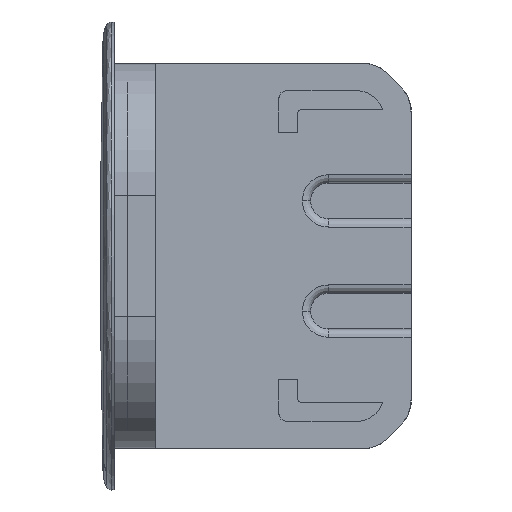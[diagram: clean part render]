
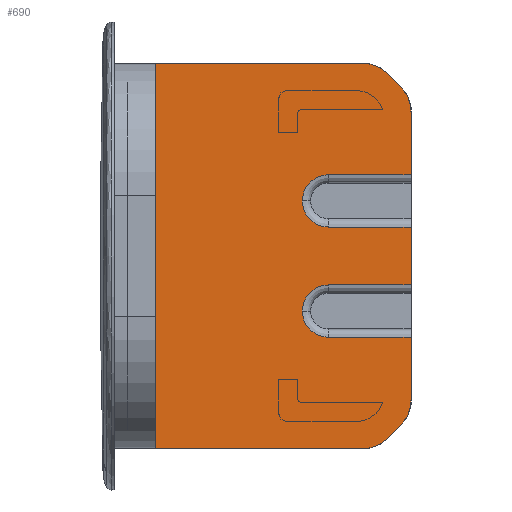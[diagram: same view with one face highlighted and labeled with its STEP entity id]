
A CAD part, left-side view. The second image highlights one B-rep face of the part: STEP entity #690.
In plain terms, the highlighted planar face has unit normal (-1, 0, 0).
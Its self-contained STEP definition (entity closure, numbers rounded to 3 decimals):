
#480=FACE_OUTER_BOUND('',#1015,.T.);
#690=ADVANCED_FACE('',(#480),#806,.T.);
#806=PLANE('',#4421);
#1015=EDGE_LOOP('',(#2941,#2942,#2943,#2944,#2945,#2946,#2947,#2948,#2949,
#2950,#2951,#2952,#2953,#2954,#2955,#2956,#2957,#2958,#2959,#2960,#2961,
#2962));
#1188=CIRCLE('',#4361,0.95);
#1192=CIRCLE('',#4366,0.95);
#1218=CIRCLE('',#4404,1.3);
#1219=CIRCLE('',#4407,1.3);
#1222=CIRCLE('',#4412,1.3);
#1223=CIRCLE('',#4415,1.3);
#1224=CIRCLE('',#4419,0.95);
#1225=CIRCLE('',#4420,0.95);
#1524=LINE('',#7477,#1874);
#1525=LINE('',#7481,#1875);
#1554=LINE('',#7575,#1904);
#1557=LINE('',#7583,#1907);
#1561=LINE('',#7595,#1911);
#1563=LINE('',#7603,#1913);
#1567=LINE('',#7613,#1917);
#1569=LINE('',#7708,#1919);
#1570=LINE('',#7710,#1920);
#1571=LINE('',#7712,#1921);
#1572=LINE('',#7713,#1922);
#1573=LINE('',#7716,#1923);
#1574=LINE('',#7717,#1924);
#1575=LINE('',#7720,#1925);
#1874=VECTOR('',#5351,1.);
#1875=VECTOR('',#5356,1.);
#1904=VECTOR('',#5439,1.);
#1907=VECTOR('',#5448,1.);
#1911=VECTOR('',#5460,1.);
#1913=VECTOR('',#5470,1.);
#1917=VECTOR('',#5480,1.);
#1919=VECTOR('',#5486,1.);
#1920=VECTOR('',#5487,1.);
#1921=VECTOR('',#5488,1.);
#1922=VECTOR('',#5489,1.);
#1923=VECTOR('',#5492,1.);
#1924=VECTOR('',#5493,1.);
#1925=VECTOR('',#5496,1.);
#2941=ORIENTED_EDGE('',*,*,#3982,.F.);
#2942=ORIENTED_EDGE('',*,*,#3978,.F.);
#2943=ORIENTED_EDGE('',*,*,#3976,.F.);
#2944=ORIENTED_EDGE('',*,*,#3974,.F.);
#2945=ORIENTED_EDGE('',*,*,#3972,.F.);
#2946=ORIENTED_EDGE('',*,*,#3994,.F.);
#2947=ORIENTED_EDGE('',*,*,#3995,.T.);
#2948=ORIENTED_EDGE('',*,*,#3996,.F.);
#2949=ORIENTED_EDGE('',*,*,#3991,.F.);
#2950=ORIENTED_EDGE('',*,*,#3988,.F.);
#2951=ORIENTED_EDGE('',*,*,#3986,.F.);
#2952=ORIENTED_EDGE('',*,*,#3984,.F.);
#2953=ORIENTED_EDGE('',*,*,#3925,.F.);
#2954=ORIENTED_EDGE('',*,*,#3997,.T.);
#2955=ORIENTED_EDGE('',*,*,#3909,.T.);
#2956=ORIENTED_EDGE('',*,*,#3998,.T.);
#2957=ORIENTED_EDGE('',*,*,#3999,.T.);
#2958=ORIENTED_EDGE('',*,*,#3923,.F.);
#2959=ORIENTED_EDGE('',*,*,#4000,.T.);
#2960=ORIENTED_EDGE('',*,*,#3913,.T.);
#2961=ORIENTED_EDGE('',*,*,#4001,.T.);
#2962=ORIENTED_EDGE('',*,*,#4002,.T.);
#3385=VERTEX_POINT('',#7447);
#3386=VERTEX_POINT('',#7448);
#3389=VERTEX_POINT('',#7456);
#3390=VERTEX_POINT('',#7457);
#3399=VERTEX_POINT('',#7476);
#3400=VERTEX_POINT('',#7478);
#3401=VERTEX_POINT('',#7482);
#3402=VERTEX_POINT('',#7483);
#3438=VERTEX_POINT('',#7574);
#3439=VERTEX_POINT('',#7576);
#3440=VERTEX_POINT('',#7580);
#3441=VERTEX_POINT('',#7584);
#3442=VERTEX_POINT('',#7588);
#3445=VERTEX_POINT('',#7596);
#3446=VERTEX_POINT('',#7600);
#3447=VERTEX_POINT('',#7604);
#3448=VERTEX_POINT('',#7608);
#3450=VERTEX_POINT('',#7614);
#3451=VERTEX_POINT('',#7709);
#3452=VERTEX_POINT('',#7711);
#3453=VERTEX_POINT('',#7715);
#3454=VERTEX_POINT('',#7719);
#3909=EDGE_CURVE('',#3385,#3386,#1188,.T.);
#3913=EDGE_CURVE('',#3389,#3390,#1192,.T.);
#3923=EDGE_CURVE('',#3399,#3400,#1524,.T.);
#3925=EDGE_CURVE('',#3401,#3402,#1525,.T.);
#3972=EDGE_CURVE('',#3438,#3439,#1554,.T.);
#3974=EDGE_CURVE('',#3439,#3440,#1218,.T.);
#3976=EDGE_CURVE('',#3440,#3441,#1557,.T.);
#3978=EDGE_CURVE('',#3441,#3442,#1219,.T.);
#3982=EDGE_CURVE('',#3442,#3445,#1561,.T.);
#3984=EDGE_CURVE('',#3402,#3446,#1222,.T.);
#3986=EDGE_CURVE('',#3446,#3447,#1563,.T.);
#3988=EDGE_CURVE('',#3447,#3448,#1223,.T.);
#3991=EDGE_CURVE('',#3448,#3450,#1567,.T.);
#3994=EDGE_CURVE('',#3451,#3438,#1569,.T.);
#3995=EDGE_CURVE('',#3451,#3452,#1570,.T.);
#3996=EDGE_CURVE('',#3450,#3452,#1571,.T.);
#3997=EDGE_CURVE('',#3401,#3385,#1572,.T.);
#3998=EDGE_CURVE('',#3386,#3453,#1224,.T.);
#3999=EDGE_CURVE('',#3453,#3400,#1573,.T.);
#4000=EDGE_CURVE('',#3399,#3389,#1574,.T.);
#4001=EDGE_CURVE('',#3390,#3454,#1225,.T.);
#4002=EDGE_CURVE('',#3454,#3445,#1575,.T.);
#4361=AXIS2_PLACEMENT_3D('',#7446,#5322,#5323);
#4366=AXIS2_PLACEMENT_3D('',#7455,#5332,#5333);
#4404=AXIS2_PLACEMENT_3D('',#7579,#5443,#5444);
#4407=AXIS2_PLACEMENT_3D('',#7587,#5452,#5453);
#4412=AXIS2_PLACEMENT_3D('',#7599,#5465,#5466);
#4415=AXIS2_PLACEMENT_3D('',#7607,#5474,#5475);
#4419=AXIS2_PLACEMENT_3D('',#7714,#5490,#5491);
#4420=AXIS2_PLACEMENT_3D('',#7718,#5494,#5495);
#4421=AXIS2_PLACEMENT_3D('',#7721,#5497,#5498);
#5322=DIRECTION('',(1.,0.,0.));
#5323=DIRECTION('',(0.,1.,0.));
#5332=DIRECTION('',(1.,0.,0.));
#5333=DIRECTION('',(0.,1.,0.));
#5351=DIRECTION('',(0.,0.,-1.));
#5356=DIRECTION('',(0.,0.,-1.));
#5439=DIRECTION('',(0.,-1.,0.));
#5443=DIRECTION('',(1.,0.,0.));
#5444=DIRECTION('',(0.,1.,0.));
#5448=DIRECTION('',(0.,-0.707,-0.707));
#5452=DIRECTION('',(1.,0.,0.));
#5453=DIRECTION('',(0.,1.,0.));
#5460=DIRECTION('',(0.,0.,-1.));
#5465=DIRECTION('',(1.,0.,0.));
#5466=DIRECTION('',(0.,1.,0.));
#5470=DIRECTION('',(0.,0.707,-0.707));
#5474=DIRECTION('',(1.,0.,0.));
#5475=DIRECTION('',(0.,-1.,0.));
#5480=DIRECTION('',(0.,1.,0.));
#5486=DIRECTION('',(0.,0.,1.));
#5487=DIRECTION('',(0.,0.,-1.));
#5488=DIRECTION('',(0.,0.,1.));
#5489=DIRECTION('',(0.,1.,0.));
#5490=DIRECTION('',(1.,0.,0.));
#5491=DIRECTION('',(0.,1.,0.));
#5492=DIRECTION('',(0.,-1.,0.));
#5493=DIRECTION('',(0.,1.,0.));
#5494=DIRECTION('',(1.,0.,0.));
#5495=DIRECTION('',(0.,1.,0.));
#5496=DIRECTION('',(0.,-1.,0.));
#5497=DIRECTION('',(-1.,0.,0.));
#5498=DIRECTION('',(0.,0.,1.));
#7446=CARTESIAN_POINT('',(-298.5,3.012,-2.));
#7447=CARTESIAN_POINT('',(-298.5,3.012,-2.95));
#7448=CARTESIAN_POINT('',(-298.5,3.962,-2.));
#7455=CARTESIAN_POINT('',(-298.5,3.012,2.));
#7456=CARTESIAN_POINT('',(-298.5,3.012,1.05));
#7457=CARTESIAN_POINT('',(-298.5,3.962,2.));
#7476=CARTESIAN_POINT('',(-298.5,0.012,1.05));
#7477=CARTESIAN_POINT('',(-298.5,0.012,2.938));
#7478=CARTESIAN_POINT('',(-298.5,0.012,-1.05));
#7481=CARTESIAN_POINT('',(-298.5,0.012,2.938));
#7482=CARTESIAN_POINT('',(-298.5,0.012,-2.95));
#7483=CARTESIAN_POINT('',(-298.5,0.012,-5.226));
#7574=CARTESIAN_POINT('',(-298.5,9.3,7.));
#7575=CARTESIAN_POINT('',(-298.5,6.293,7.));
#7576=CARTESIAN_POINT('',(-298.5,1.786,7.));
#7579=CARTESIAN_POINT('',(-298.5,1.786,5.7));
#7580=CARTESIAN_POINT('',(-298.5,0.867,6.619));
#7583=CARTESIAN_POINT('',(-298.5,0.63,6.382));
#7584=CARTESIAN_POINT('',(-298.5,0.393,6.145));
#7587=CARTESIAN_POINT('',(-298.5,1.312,5.226));
#7588=CARTESIAN_POINT('',(-298.5,0.012,5.226));
#7595=CARTESIAN_POINT('',(-298.5,0.012,2.938));
#7596=CARTESIAN_POINT('',(-298.5,0.012,2.95));
#7599=CARTESIAN_POINT('',(-298.5,1.312,-5.226));
#7600=CARTESIAN_POINT('',(-298.5,0.393,-6.145));
#7603=CARTESIAN_POINT('',(-298.5,0.63,-6.382));
#7604=CARTESIAN_POINT('',(-298.5,0.867,-6.619));
#7607=CARTESIAN_POINT('',(-298.5,1.786,-5.7));
#7608=CARTESIAN_POINT('',(-298.5,1.786,-7.));
#7613=CARTESIAN_POINT('',(-298.5,6.293,-7.));
#7614=CARTESIAN_POINT('',(-298.5,9.3,-7.));
#7708=CARTESIAN_POINT('',(-298.5,9.3,7.7));
#7709=CARTESIAN_POINT('',(-298.5,9.3,6.5));
#7710=CARTESIAN_POINT('',(-298.5,9.3,7.7));
#7711=CARTESIAN_POINT('',(-298.5,9.3,-6.5));
#7712=CARTESIAN_POINT('',(-298.5,9.3,7.7));
#7713=CARTESIAN_POINT('',(-298.5,0.012,-2.95));
#7714=CARTESIAN_POINT('',(-298.5,3.012,-2.));
#7715=CARTESIAN_POINT('',(-298.5,3.012,-1.05));
#7716=CARTESIAN_POINT('',(-298.5,3.012,-1.05));
#7717=CARTESIAN_POINT('',(-298.5,0.012,1.05));
#7718=CARTESIAN_POINT('',(-298.5,3.012,2.));
#7719=CARTESIAN_POINT('',(-298.5,3.012,2.95));
#7720=CARTESIAN_POINT('',(-298.5,3.012,2.95));
#7721=CARTESIAN_POINT('',(-298.5,-26.493,33.741));
